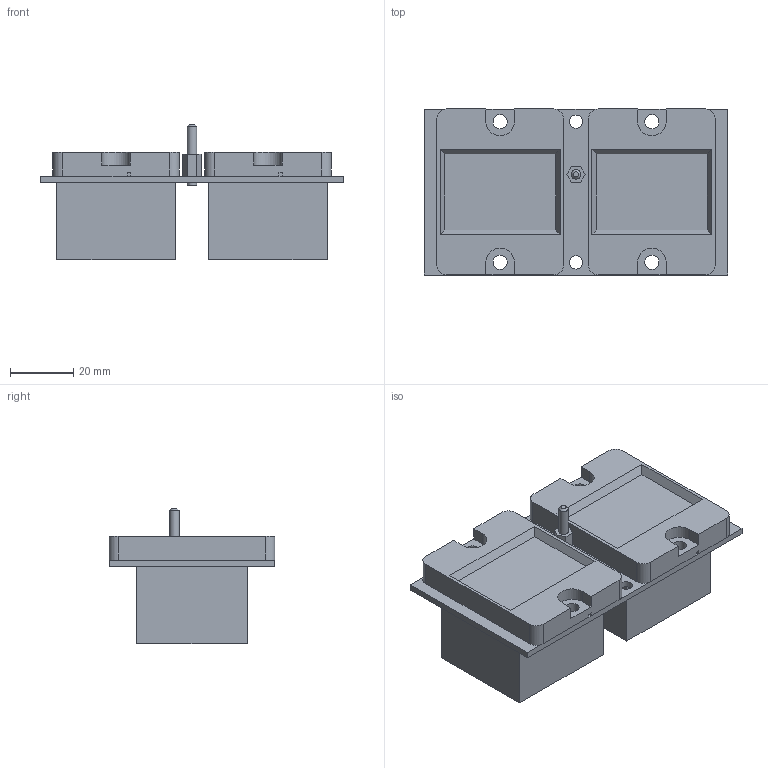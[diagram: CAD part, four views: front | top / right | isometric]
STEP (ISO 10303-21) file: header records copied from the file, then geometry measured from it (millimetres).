
FILE_DESCRIPTION((''),'2;1');
FILE_NAME('K:\TB\Bibliotheek\Inventor\Relais voeten\V89\V89.stp','2008-08-25T14:09:13',('Niriawan'),(''),'Autodesk Inventor 2009','Autodesk Inventor 2009','');
FILE_SCHEMA(('AUTOMOTIVE_DESIGN { 1 0 10303 214 1 1 1 1 }'));
Length unit declared in the file: millimetre
Products named in the file (1): V89
Bounding box: 96 x 52.5 x 43 mm (x, y, z)
Volume: 80888.3 mm3; surface area: 39441.4 mm2
Topology: 1 solids, 1 shells, 540 faces, 1307 edges, 863 vertices
Faces by surface type: plane 510, cylinder 18, bspline 11, cone 1
Full cylindrical faces by diameter (mm): 3 x2, 4.5 x4
Entity records: 16059 total; most frequent: CARTESIAN_POINT 2880, ORIENTED_EDGE 2578, DIRECTION 2400, EDGE_CURVE 1289, VECTOR 1238, LINE 1238, VERTEX_POINT 863, EDGE_LOOP 664
